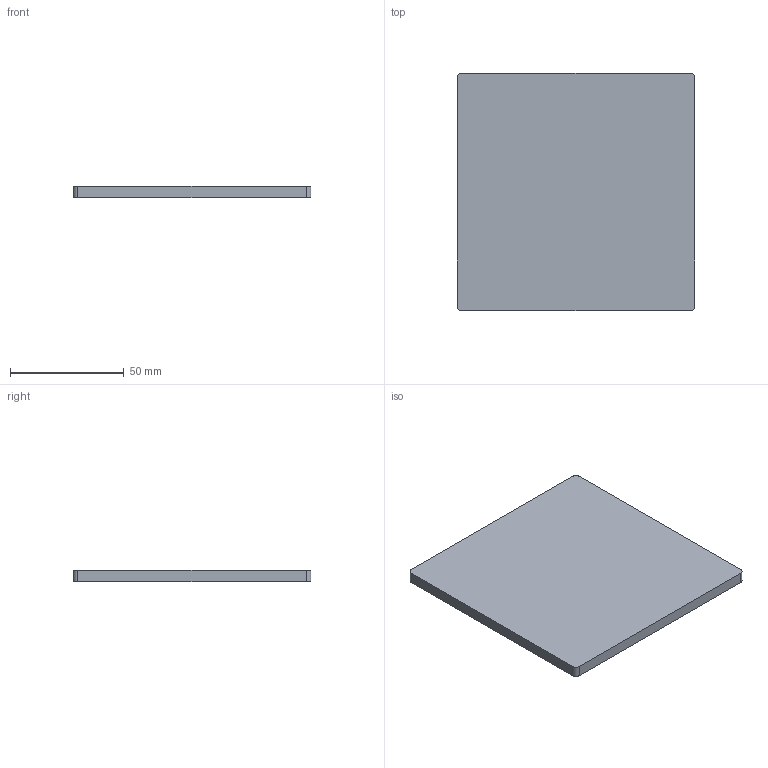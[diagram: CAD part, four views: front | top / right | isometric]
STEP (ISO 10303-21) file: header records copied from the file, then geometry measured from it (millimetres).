
FILE_DESCRIPTION (( 'STEP AP214' ), '1' );
FILE_NAME ('3561004801~cat.STEP', '2025-04-28T13:07:24', ( '' ), ( '' ), 'SwSTEP 2.0', 'SolidWorks 2025', '' );
FILE_SCHEMA (( 'AUTOMOTIVE_DESIGN' ));
Length unit declared in the file: millimetre
Products named in the file (1): 3561004801~cat
Bounding box: 104.5 x 104.5 x 5 mm (x, y, z)
Volume: 54582.3 mm3; surface area: 23904.9 mm2
Topology: 1 solids, 1 shells, 10 faces, 24 edges, 16 vertices
Faces by surface type: plane 6, cylinder 4
Entity records: 319 total; most frequent: DIRECTION 54, CARTESIAN_POINT 51, ORIENTED_EDGE 48, EDGE_CURVE 24, AXIS2_PLACEMENT_3D 19, VERTEX_POINT 16, LINE 16, VECTOR 16
